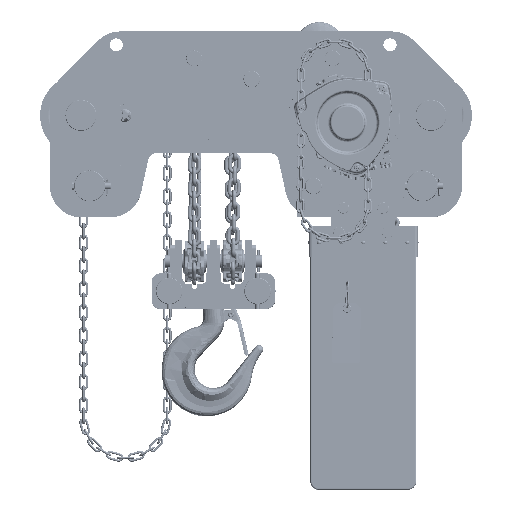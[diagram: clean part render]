
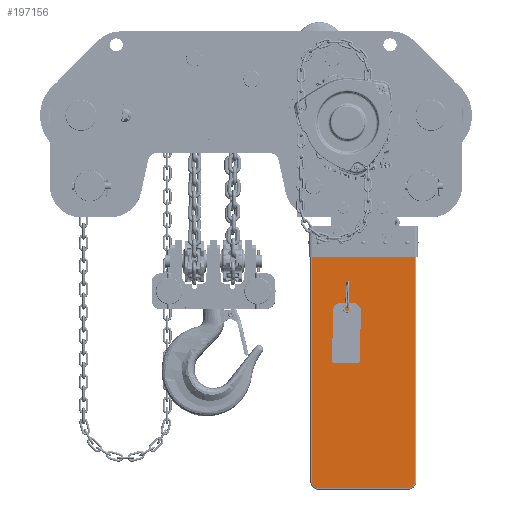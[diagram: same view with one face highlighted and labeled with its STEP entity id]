
A CAD part, top view. The second image highlights one B-rep face of the part: STEP entity #197156.
In plain terms, the highlighted planar face has unit normal (0, 0, 1) as drawn and (-1, 0, 0) by its records, which use the part's own axes.
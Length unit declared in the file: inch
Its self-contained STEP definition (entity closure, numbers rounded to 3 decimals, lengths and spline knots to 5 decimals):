
#4799 = DIRECTION ( 'NONE',  ( -1., 0., 0. ) ) ;
#11225 = CARTESIAN_POINT ( 'NONE',  ( -4.72441, -22.44094, -4.6063 ) ) ;
#14141 = DIRECTION ( 'NONE',  ( -1., 0., 0. ) ) ;
#43858 = VERTEX_POINT ( 'NONE', #307420 ) ;
#48604 = ORIENTED_EDGE ( 'NONE', *, *, #618252, .T. ) ;
#79425 = EDGE_CURVE ( 'NONE', #511536, #43858, #526174, .T. ) ;
#93103 = CARTESIAN_POINT ( 'NONE',  ( -4.72441, -22.32283, 3.93701 ) ) ;
#97261 = DIRECTION ( 'NONE',  ( 0., 0., 1. ) ) ;
#113114 = FACE_OUTER_BOUND ( 'NONE', #122297, .T. ) ;
#122297 = EDGE_LOOP ( 'NONE', ( #234538, #315223, #618752, #48604, #375904, #198418 ) ) ;
#176488 = LINE ( 'NONE', #582206, #365386 ) ;
#179638 = VERTEX_POINT ( 'NONE', #266030 ) ;
#184168 = LINE ( 'NONE', #305056, #449754 ) ;
#197156 = ADVANCED_FACE ( 'NONE', ( #113114 ), #509214, .T. ) ;
#198418 = ORIENTED_EDGE ( 'NONE', *, *, #376264, .T. ) ;
#215486 = DIRECTION ( 'NONE',  ( 0., 0., 1. ) ) ;
#234538 = ORIENTED_EDGE ( 'NONE', *, *, #330883, .F. ) ;
#241694 = EDGE_CURVE ( 'NONE', #532850, #264893, #406405, .T. ) ;
#252270 = DIRECTION ( 'NONE',  ( 0., 0., 1. ) ) ;
#264893 = VERTEX_POINT ( 'NONE', #436146 ) ;
#266030 = CARTESIAN_POINT ( 'NONE',  ( -4.72441, 0., -4.6063 ) ) ;
#304992 = LINE ( 'NONE', #11225, #609354 ) ;
#305056 = CARTESIAN_POINT ( 'NONE',  ( -4.72441, 0., -4.72441 ) ) ;
#307420 = CARTESIAN_POINT ( 'NONE',  ( -4.72441, -21.65354, 4.6063 ) ) ;
#315223 = ORIENTED_EDGE ( 'NONE', *, *, #611710, .T. ) ;
#315518 = LINE ( 'NONE', #371592, #418938 ) ;
#330883 = EDGE_CURVE ( 'NONE', #179638, #586663, #184168, .T. ) ;
#347361 = DIRECTION ( 'NONE',  ( -1., 0., 0. ) ) ;
#365386 = VECTOR ( 'NONE', #476770, 39.37008 ) ;
#371592 = CARTESIAN_POINT ( 'NONE',  ( -4.72441, -22.44094, 4.6063 ) ) ;
#375904 = ORIENTED_EDGE ( 'NONE', *, *, #79425, .T. ) ;
#376264 = EDGE_CURVE ( 'NONE', #43858, #586663, #315518, .T. ) ;
#378379 = AXIS2_PLACEMENT_3D ( 'NONE', #460152, #4799, #97261 ) ;
#396852 = CARTESIAN_POINT ( 'NONE',  ( -4.72441, -21.65354, -3.93701 ) ) ;
#406405 = CIRCLE ( 'NONE', #480328, 0.66929 ) ;
#418938 = VECTOR ( 'NONE', #424221, 39.37008 ) ;
#424221 = DIRECTION ( 'NONE',  ( 0., 1., 0. ) ) ;
#436146 = CARTESIAN_POINT ( 'NONE',  ( -4.72441, -22.32283, -3.93701 ) ) ;
#449754 = VECTOR ( 'NONE', #252270, 39.37008 ) ;
#460152 = CARTESIAN_POINT ( 'NONE',  ( -4.72441, -21.65354, 3.93701 ) ) ;
#472940 = CARTESIAN_POINT ( 'NONE',  ( -4.72441, 0., 4.6063 ) ) ;
#475732 = AXIS2_PLACEMENT_3D ( 'NONE', #611456, #14141, #215486 ) ;
#476770 = DIRECTION ( 'NONE',  ( 0., 0., 1. ) ) ;
#480328 = AXIS2_PLACEMENT_3D ( 'NONE', #396852, #347361, #499079 ) ;
#499079 = DIRECTION ( 'NONE',  ( 0., 0., 1. ) ) ;
#509214 = PLANE ( 'NONE',  #475732 ) ;
#511536 = VERTEX_POINT ( 'NONE', #93103 ) ;
#512788 = DIRECTION ( 'NONE',  ( 0., -1., 0. ) ) ;
#526174 = CIRCLE ( 'NONE', #378379, 0.66929 ) ;
#532850 = VERTEX_POINT ( 'NONE', #566557 ) ;
#566557 = CARTESIAN_POINT ( 'NONE',  ( -4.72441, -21.65354, -4.6063 ) ) ;
#582206 = CARTESIAN_POINT ( 'NONE',  ( -4.72441, -22.32283, 3.93701 ) ) ;
#586663 = VERTEX_POINT ( 'NONE', #472940 ) ;
#609354 = VECTOR ( 'NONE', #512788, 39.37008 ) ;
#611456 = CARTESIAN_POINT ( 'NONE',  ( -4.72441, -22.44094, -4.72441 ) ) ;
#611710 = EDGE_CURVE ( 'NONE', #179638, #532850, #304992, .T. ) ;
#618252 = EDGE_CURVE ( 'NONE', #264893, #511536, #176488, .T. ) ;
#618752 = ORIENTED_EDGE ( 'NONE', *, *, #241694, .T. ) ;
